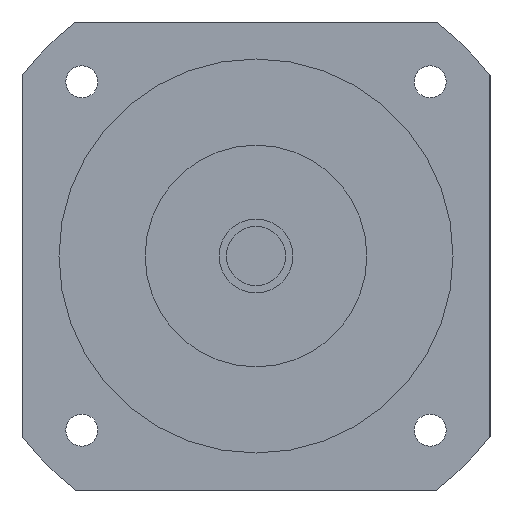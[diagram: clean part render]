
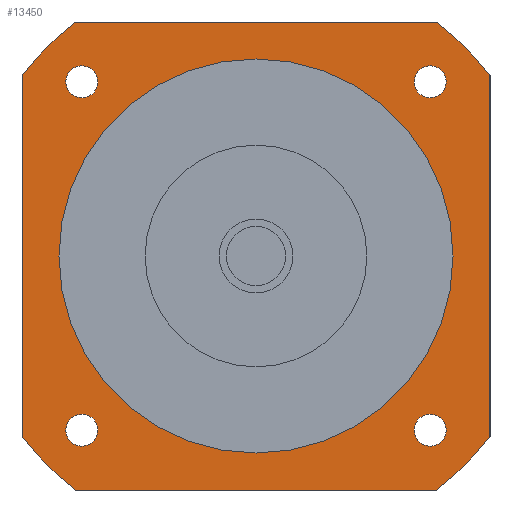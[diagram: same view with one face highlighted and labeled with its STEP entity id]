
A CAD part, left-side view. The second image highlights one B-rep face of the part: STEP entity #13450.
In plain terms, the highlighted planar face has unit normal (-1, 0, 0) as drawn and (0, 0, -1) by its records, which use the part's own axes.
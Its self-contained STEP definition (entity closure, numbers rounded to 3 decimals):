
#8640=CARTESIAN_POINT('',(-36.657,47.5,-43.2));
#8650=VERTEX_POINT('',#8640);
#8830=CARTESIAN_POINT('',(-47.5,36.657,-43.2));
#8840=VERTEX_POINT('',#8830);
#8870=CARTESIAN_POINT('',(0.,0.,
-43.2));
#8880=DIRECTION('',(0.,0.,-1.));
#8890=DIRECTION('',(1.,0.,0.));
#8900=AXIS2_PLACEMENT_3D('',#8870,#8880,#8890);
#8910=CIRCLE('',#8900,60.);
#8920=EDGE_CURVE('',#8840,#8650,#8910,.T.);
#9060=CARTESIAN_POINT('',(47.5,36.657,-43.2));
#9070=VERTEX_POINT('',#9060);
#9120=CARTESIAN_POINT('',(47.5,47.5,-43.2));
#9130=DIRECTION('',(0.,-1.,0.));
#9140=VECTOR('',#9130,1000.);
#9150=LINE('',#9120,#9140);
#9160=CARTESIAN_POINT('',(47.5,-36.657,-43.2));
#9170=VERTEX_POINT('',#9160);
#9180=EDGE_CURVE('',#9070,#9170,#9150,.T.);
#11970=CARTESIAN_POINT('',(-32.105,35.355,-43.2));
#11980=VERTEX_POINT('',#11970);
#12010=CARTESIAN_POINT('',(-35.355,35.355,-43.2));
#12020=DIRECTION('',(0.,0.,-1.));
#12030=DIRECTION('',(-1.,0.,0.));
#12040=AXIS2_PLACEMENT_3D('',#12010,#12020,#12030);
#12050=CIRCLE('',#12040,3.25);
#12060=CARTESIAN_POINT('',(-38.605,35.355,-43.2));
#12070=VERTEX_POINT('',#12060);
#12080=EDGE_CURVE('',#12070,#11980,#12050,.T.);
#12200=CARTESIAN_POINT('',(47.5,47.5,-43.2));
#12210=DIRECTION('',(0.,0.,-1.));
#12220=DIRECTION('',(1.,0.,0.));
#12230=AXIS2_PLACEMENT_3D('',#12200,#12210,#12220);
#12240=PLANE('',#12230);
#12250=ORIENTED_EDGE('',*,*,#12080,.F.);
#12260=EDGE_CURVE('',#11980,#12070,#12050,.T.);
#12270=ORIENTED_EDGE('',*,*,#12260,.F.);
#12280=EDGE_LOOP('',(#12270,#12250));
#12290=FACE_BOUND('',#12280,.T.);
#12300=CARTESIAN_POINT('',(35.355,35.355,-43.2));
#12310=DIRECTION('',(0.,0.,-1.));
#12320=DIRECTION('',(0.,1.,0.));
#12330=AXIS2_PLACEMENT_3D('',#12300,#12310,#12320);
#12340=CIRCLE('',#12330,3.25);
#12350=CARTESIAN_POINT('',(35.355,38.605,-43.2));
#12360=VERTEX_POINT('',#12350);
#12370=CARTESIAN_POINT('',(35.355,32.105,-43.2));
#12380=VERTEX_POINT('',#12370);
#12390=EDGE_CURVE('',#12360,#12380,#12340,.T.);
#12400=ORIENTED_EDGE('',*,*,#12390,.F.);
#12410=EDGE_CURVE('',#12380,#12360,#12340,.T.);
#12420=ORIENTED_EDGE('',*,*,#12410,.F.);
#12430=EDGE_LOOP('',(#12420,#12400));
#12440=FACE_BOUND('',#12430,.T.);
#12450=CARTESIAN_POINT('',(0.,0.,
-43.2));
#12460=DIRECTION('',(0.,0.,1.));
#12470=DIRECTION('',(0.,1.,0.));
#12480=AXIS2_PLACEMENT_3D('',#12450,#12460,#12470);
#12490=CIRCLE('',#12480,40.);
#12500=CARTESIAN_POINT('',(-40.,0.,-43.2));
#12510=VERTEX_POINT('',#12500);
#12520=CARTESIAN_POINT('',(40.,0.,-43.2));
#12530=VERTEX_POINT('',#12520);
#12540=EDGE_CURVE('',#12510,#12530,#12490,.T.);
#12550=ORIENTED_EDGE('',*,*,#12540,.T.);
#12560=CARTESIAN_POINT('',(0.,40.,-43.2));
#12570=VERTEX_POINT('',#12560);
#12580=EDGE_CURVE('',#12570,#12510,#12490,.T.);
#12590=ORIENTED_EDGE('',*,*,#12580,.T.);
#12600=EDGE_CURVE('',#12530,#12570,#12490,.T.);
#12610=ORIENTED_EDGE('',*,*,#12600,.T.);
#12620=EDGE_LOOP('',(#12610,#12590,#12550));
#12630=FACE_BOUND('',#12620,.T.);
#12640=CARTESIAN_POINT('',(35.355,-35.355,-43.2));
#12650=DIRECTION('',(0.,0.,-1.));
#12660=DIRECTION('',(1.,0.,0.));
#12670=AXIS2_PLACEMENT_3D('',#12640,#12650,#12660);
#12680=CIRCLE('',#12670,3.25);
#12690=CARTESIAN_POINT('',(38.605,-35.355,-43.2));
#12700=VERTEX_POINT('',#12690);
#12710=CARTESIAN_POINT('',(32.105,-35.355,-43.2));
#12720=VERTEX_POINT('',#12710);
#12730=EDGE_CURVE('',#12700,#12720,#12680,.T.);
#12740=ORIENTED_EDGE('',*,*,#12730,.F.);
#12750=EDGE_CURVE('',#12720,#12700,#12680,.T.);
#12760=ORIENTED_EDGE('',*,*,#12750,.F.);
#12770=EDGE_LOOP('',(#12760,#12740));
#12780=FACE_BOUND('',#12770,.T.);
#12790=CARTESIAN_POINT('',(-35.355,-35.355,-43.2));
#12800=DIRECTION('',(0.,0.,-1.));
#12810=DIRECTION('',(0.,-1.,0.));
#12820=AXIS2_PLACEMENT_3D('',#12790,#12800,#12810);
#12830=CIRCLE('',#12820,3.25);
#12840=CARTESIAN_POINT('',(-35.355,-38.605,-43.2));
#12850=VERTEX_POINT('',#12840);
#12860=CARTESIAN_POINT('',(-35.355,-32.105,-43.2));
#12870=VERTEX_POINT('',#12860);
#12880=EDGE_CURVE('',#12850,#12870,#12830,.T.);
#12890=ORIENTED_EDGE('',*,*,#12880,.F.);
#12900=EDGE_CURVE('',#12870,#12850,#12830,.T.);
#12910=ORIENTED_EDGE('',*,*,#12900,.F.);
#12920=EDGE_LOOP('',(#12910,#12890));
#12930=FACE_BOUND('',#12920,.T.);
#12940=CARTESIAN_POINT('',(-47.5,47.5,-43.2));
#12950=DIRECTION('',(1.,0.,0.));
#12960=VECTOR('',#12950,1000.);
#12970=LINE('',#12940,#12960);
#12980=CARTESIAN_POINT('',(36.657,47.5,-43.2));
#12990=VERTEX_POINT('',#12980);
#13000=EDGE_CURVE('',#8650,#12990,#12970,.T.);
#13010=ORIENTED_EDGE('',*,*,#13000,.T.);
#13020=ORIENTED_EDGE('',*,*,#8920,.T.);
#13030=CARTESIAN_POINT('',(-47.5,-47.5,-43.2));
#13040=DIRECTION('',(0.,1.,0.));
#13050=VECTOR('',#13040,1000.);
#13060=LINE('',#13030,#13050);
#13070=CARTESIAN_POINT('',(-47.5,-36.657,-43.2));
#13080=VERTEX_POINT('',#13070);
#13090=EDGE_CURVE('',#13080,#8840,#13060,.T.);
#13100=ORIENTED_EDGE('',*,*,#13090,.T.);
#13110=CARTESIAN_POINT('',(0.,0.,
-43.2));
#13120=DIRECTION('',(0.,0.,-1.));
#13130=DIRECTION('',(1.,0.,0.));
#13140=AXIS2_PLACEMENT_3D('',#13110,#13120,#13130);
#13150=CIRCLE('',#13140,60.);
#13160=CARTESIAN_POINT('',(-36.657,-47.5,-43.2));
#13170=VERTEX_POINT('',#13160);
#13180=EDGE_CURVE('',#13170,#13080,#13150,.T.);
#13190=ORIENTED_EDGE('',*,*,#13180,.T.);
#13200=CARTESIAN_POINT('',(47.5,-47.5,-43.2));
#13210=DIRECTION('',(-1.,0.,0.));
#13220=VECTOR('',#13210,1000.);
#13230=LINE('',#13200,#13220);
#13240=CARTESIAN_POINT('',(36.657,-47.5,-43.2));
#13250=VERTEX_POINT('',#13240);
#13260=EDGE_CURVE('',#13250,#13170,#13230,.T.);
#13270=ORIENTED_EDGE('',*,*,#13260,.T.);
#13280=CARTESIAN_POINT('',(0.,0.,
-43.2));
#13290=DIRECTION('',(0.,0.,-1.));
#13300=DIRECTION('',(1.,0.,0.));
#13310=AXIS2_PLACEMENT_3D('',#13280,#13290,#13300);
#13320=CIRCLE('',#13310,60.);
#13330=EDGE_CURVE('',#9170,#13250,#13320,.T.);
#13340=ORIENTED_EDGE('',*,*,#13330,.T.);
#13350=ORIENTED_EDGE('',*,*,#9180,.T.);
#13360=CARTESIAN_POINT('',(0.,0.,
-43.2));
#13370=DIRECTION('',(0.,0.,-1.));
#13380=DIRECTION('',(1.,0.,0.));
#13390=AXIS2_PLACEMENT_3D('',#13360,#13370,#13380);
#13400=CIRCLE('',#13390,60.);
#13410=EDGE_CURVE('',#12990,#9070,#13400,.T.);
#13420=ORIENTED_EDGE('',*,*,#13410,.T.);
#13430=EDGE_LOOP('',(#13420,#13350,#13340,#13270,#13190,#13100,#13020,
#13010));
#13440=FACE_OUTER_BOUND('',#13430,.T.);
#13450=ADVANCED_FACE('',(#12290,#12440,#12630,#12780,#12930,#13440),
#12240,.T.);
